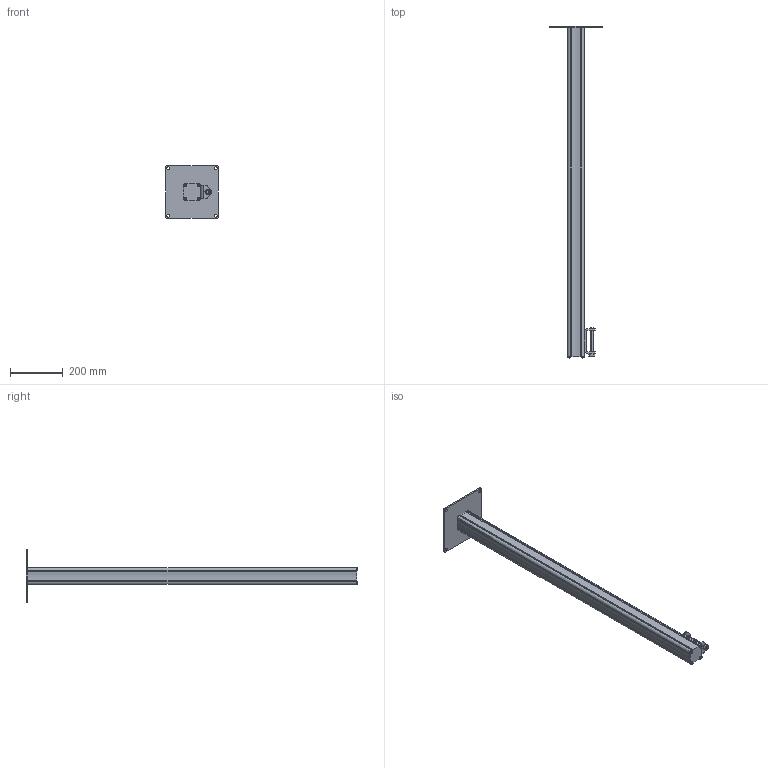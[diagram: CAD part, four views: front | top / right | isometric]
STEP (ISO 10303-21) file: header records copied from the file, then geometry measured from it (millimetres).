
FILE_DESCRIPTION((''),'2;1');
FILE_NAME('139922','2020-01-08T08:02:45',('Tomas Bellgran'),(''),'CREO PARAMETRIC BY PTC INC, 2018260','CREO PARAMETRIC BY PTC INC, 2018260','');
FILE_SCHEMA(('AUTOMOTIVE_DESIGN { 1 0 10303 214 1 1 1 1 }'));
Length unit declared in the file: millimetre
Products named in the file (10): 138774; 139917; 139460; 100-6306; 9908480; 135516; 118449; 102078; 9967826; 139922
Assembly tree (16 placements, depth 2):
  139922
    138774
    139917
    139460
    100-6306
    9908480
    135516
    118449  x4
    102078  x4
    9967826  x2
Bounding box: 200 x 1254 x 200 mm (x, y, z)
Volume: 4991453.4 mm3; surface area: 516645 mm2
Topology: 16 solids, 18 shells, 378 faces, 889 edges, 559 vertices
Faces by surface type: cylinder 194, plane 111, cone 58, sphere 10, torus 5
Entity records: 15302 total; most frequent: CARTESIAN_POINT 4599, DIRECTION 1612, ORIENTED_EDGE 1250, AXIS2_PLACEMENT_3D 645, EDGE_CURVE 629, PROPERTY_DEFINITION 510, REPRESENTATION 499, PROPERTY_DEFINITION_REPRESENTATION 499
